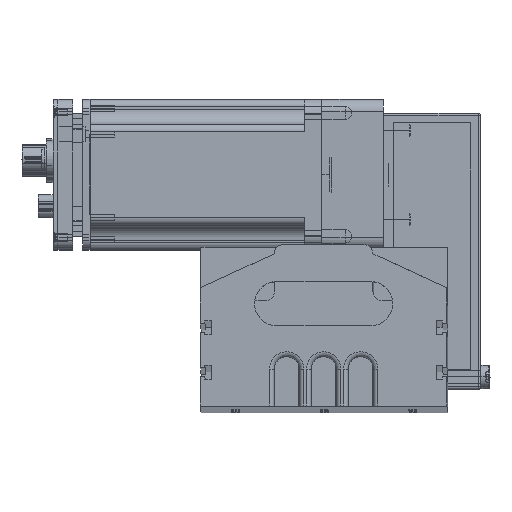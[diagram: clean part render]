
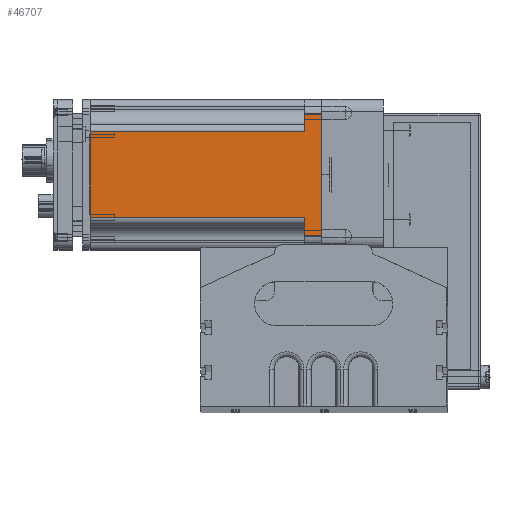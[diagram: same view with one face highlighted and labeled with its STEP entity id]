
A CAD part, top view. The second image highlights one B-rep face of the part: STEP entity #46707.
In plain terms, the highlighted planar face has unit normal (0, 0, 1).
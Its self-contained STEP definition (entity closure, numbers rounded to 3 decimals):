
#32065 = CARTESIAN_POINT ( 'NONE',  ( -24.5, 7., 30.5 ) ) ;
#32096 = CARTESIAN_POINT ( 'NONE',  ( -17.5, 7., 30.5 ) ) ;
#32127 = DIRECTION ( 'NONE',  ( 1., 0., 0. ) ) ;
#32128 = VECTOR ( 'NONE', #32127, 1000. ) ;
#32130 = CARTESIAN_POINT ( 'NONE',  ( -24.5, 7., 30.5 ) ) ;
#32132 = LINE ( 'NONE', #32130, #32128 ) ;
#32632 = CARTESIAN_POINT ( 'NONE',  ( -24.5, 0., 30.5 ) ) ;
#32770 = DIRECTION ( 'NONE',  ( 0., 1., 0. ) ) ;
#32771 = VECTOR ( 'NONE', #32770, 1000. ) ;
#32773 = CARTESIAN_POINT ( 'NONE',  ( -24.5, 7., 30.5 ) ) ;
#32780 = LINE ( 'NONE', #32773, #32771 ) ;
#35319 = DIRECTION ( 'NONE',  ( 0., -1., 0. ) ) ;
#35437 = CARTESIAN_POINT ( 'NONE',  ( 17.5, 7., 30.5 ) ) ;
#35438 = LINE ( 'NONE', #35445, #35446 ) ;
#35445 = CARTESIAN_POINT ( 'NONE',  ( 26.5, 94., 30.5 ) ) ;
#35446 = VECTOR ( 'NONE', #36444, 1000. ) ;
#35467 = VECTOR ( 'NONE', #35319, 1000. ) ;
#35929 = CARTESIAN_POINT ( 'NONE',  ( 24.5, 7., 30.5 ) ) ;
#36370 = CARTESIAN_POINT ( 'NONE',  ( 24.5, 0., 30.5 ) ) ;
#36410 = DIRECTION ( 'NONE',  ( 0., 1., 0. ) ) ;
#36412 = VECTOR ( 'NONE', #36410, 1000. ) ;
#36414 = CARTESIAN_POINT ( 'NONE',  ( -17.5, 7., 30.5 ) ) ;
#36416 = LINE ( 'NONE', #36414, #36412 ) ;
#36417 = CARTESIAN_POINT ( 'NONE',  ( 17.5, 94., 30.5 ) ) ;
#36437 = CARTESIAN_POINT ( 'NONE',  ( 17.5, 95.35, 30.5 ) ) ;
#36441 = CARTESIAN_POINT ( 'NONE',  ( -24.5, 0., 30.5 ) ) ;
#36442 = LINE ( 'NONE', #36441, #36445 ) ;
#36444 = DIRECTION ( 'NONE',  ( 1., 0., 0. ) ) ;
#36445 = VECTOR ( 'NONE', #36466, 1000. ) ;
#36446 = DIRECTION ( 'NONE',  ( -1., 0., 0. ) ) ;
#36447 = DIRECTION ( 'NONE',  ( 0., 0., -1. ) ) ;
#36463 = FACE_OUTER_BOUND ( 'NONE', #46695, .T. ) ;
#36466 = DIRECTION ( 'NONE',  ( 1., 0., 0. ) ) ;
#36471 = LINE ( 'NONE', #36437, #35467 ) ;
#36474 = AXIS2_PLACEMENT_3D ( 'NONE', #36475, #36447, #36446 ) ;
#36475 = CARTESIAN_POINT ( 'NONE',  ( -24.5, 7., 30.5 ) ) ;
#36485 = CARTESIAN_POINT ( 'NONE',  ( -17.5, 94., 30.5 ) ) ;
#36488 = PLANE ( 'NONE',  #36474 ) ;
#36553 = DIRECTION ( 'NONE',  ( 0., -1., 0. ) ) ;
#36555 = VECTOR ( 'NONE', #36553, 1000. ) ;
#36557 = DIRECTION ( 'NONE',  ( 1., 0., 0. ) ) ;
#36559 = VECTOR ( 'NONE', #36557, 1000. ) ;
#36560 = CARTESIAN_POINT ( 'NONE',  ( -24.5, 7., 30.5 ) ) ;
#36561 = LINE ( 'NONE', #36560, #36559 ) ;
#36563 = CARTESIAN_POINT ( 'NONE',  ( 24.5, 7., 30.5 ) ) ;
#36565 = LINE ( 'NONE', #36563, #36555 ) ;
#45421 = VERTEX_POINT ( 'NONE', #32096 ) ;
#45432 = VERTEX_POINT ( 'NONE', #32065 ) ;
#45448 = EDGE_CURVE ( 'NONE', #45432, #45421, #32132, .T. ) ;
#45589 = VERTEX_POINT ( 'NONE', #32632 ) ;
#45619 = EDGE_CURVE ( 'NONE', #45589, #45432, #32780, .T. ) ;
#46654 = ORIENTED_EDGE ( 'NONE', *, *, #46710, .T. ) ;
#46678 = EDGE_CURVE ( 'NONE', #45421, #46696, #36416, .T. ) ;
#46684 = VERTEX_POINT ( 'NONE', #36417 ) ;
#46695 = EDGE_LOOP ( 'NONE', ( #46714, #46704, #46711, #46654, #46735, #46713, #46708, #46719 ) ) ;
#46696 = VERTEX_POINT ( 'NONE', #36485 ) ;
#46704 = ORIENTED_EDGE ( 'NONE', *, *, #45448, .F. ) ;
#46705 = VERTEX_POINT ( 'NONE', #36370 ) ;
#46707 = ADVANCED_FACE ( 'NONE', ( #36463 ), #36488, .F. ) ;
#46708 = ORIENTED_EDGE ( 'NONE', *, *, #46723, .F. ) ;
#46710 = EDGE_CURVE ( 'NONE', #45589, #46705, #36442, .T. ) ;
#46711 = ORIENTED_EDGE ( 'NONE', *, *, #45619, .F. ) ;
#46712 = VERTEX_POINT ( 'NONE', #35929 ) ;
#46713 = ORIENTED_EDGE ( 'NONE', *, *, #46739, .F. ) ;
#46714 = ORIENTED_EDGE ( 'NONE', *, *, #46678, .F. ) ;
#46717 = VERTEX_POINT ( 'NONE', #35437 ) ;
#46719 = ORIENTED_EDGE ( 'NONE', *, *, #46720, .F. ) ;
#46720 = EDGE_CURVE ( 'NONE', #46696, #46684, #35438, .T. ) ;
#46723 = EDGE_CURVE ( 'NONE', #46684, #46717, #36471, .T. ) ;
#46735 = ORIENTED_EDGE ( 'NONE', *, *, #46746, .F. ) ;
#46739 = EDGE_CURVE ( 'NONE', #46717, #46712, #36561, .T. ) ;
#46746 = EDGE_CURVE ( 'NONE', #46712, #46705, #36565, .T. ) ;
